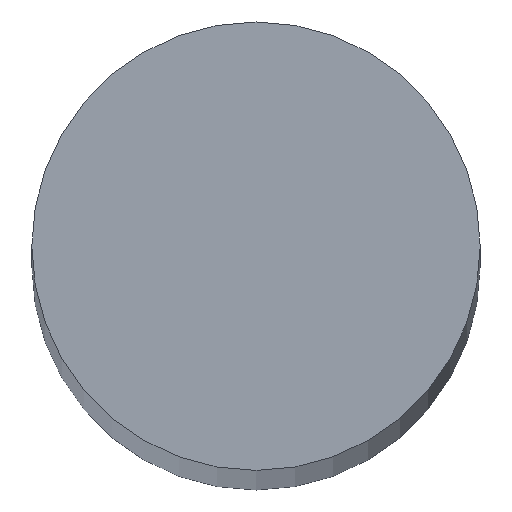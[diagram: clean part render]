
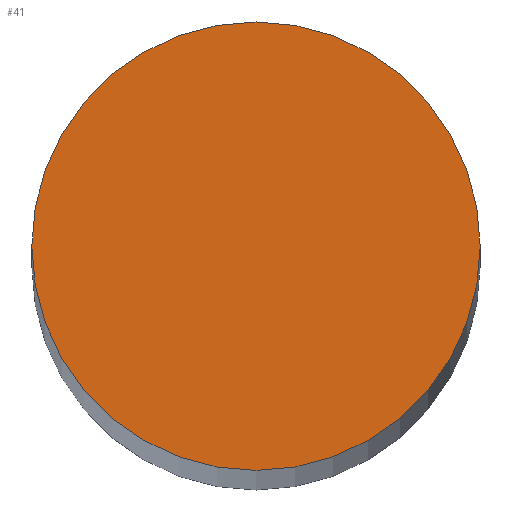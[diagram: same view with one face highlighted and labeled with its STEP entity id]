
A CAD part, top view. The second image highlights one B-rep face of the part: STEP entity #41.
In plain terms, the highlighted planar face has unit normal (0, 0, 1).
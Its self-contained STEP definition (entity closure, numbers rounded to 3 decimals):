
#16=PLANE('',#66);
#19=FACE_OUTER_BOUND('',#22,.T.);
#22=EDGE_LOOP('',(#37));
#25=CIRCLE('',#63,8.);
#27=VERTEX_POINT('',#82);
#29=EDGE_CURVE('',#27,#27,#25,.T.);
#37=ORIENTED_EDGE('',*,*,#29,.T.);
#41=ADVANCED_FACE('',(#19),#16,.T.);
#63=AXIS2_PLACEMENT_3D('',#83,#71,#72);
#66=AXIS2_PLACEMENT_3D('',#88,#78,#79);
#71=DIRECTION('center_axis',(0.,0.,1.));
#72=DIRECTION('ref_axis',(-1.,0.,0.));
#78=DIRECTION('center_axis',(0.,0.,1.));
#79=DIRECTION('ref_axis',(1.,0.,0.));
#82=CARTESIAN_POINT('',(8.,0.,400.));
#83=CARTESIAN_POINT('Origin',(0.,0.,400.));
#88=CARTESIAN_POINT('Origin',(0.,0.,
400.));
